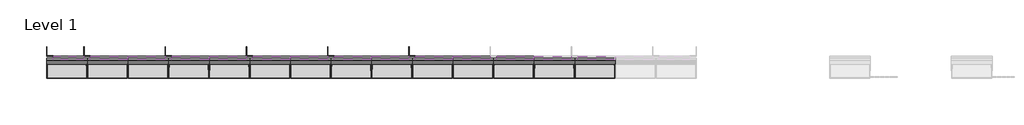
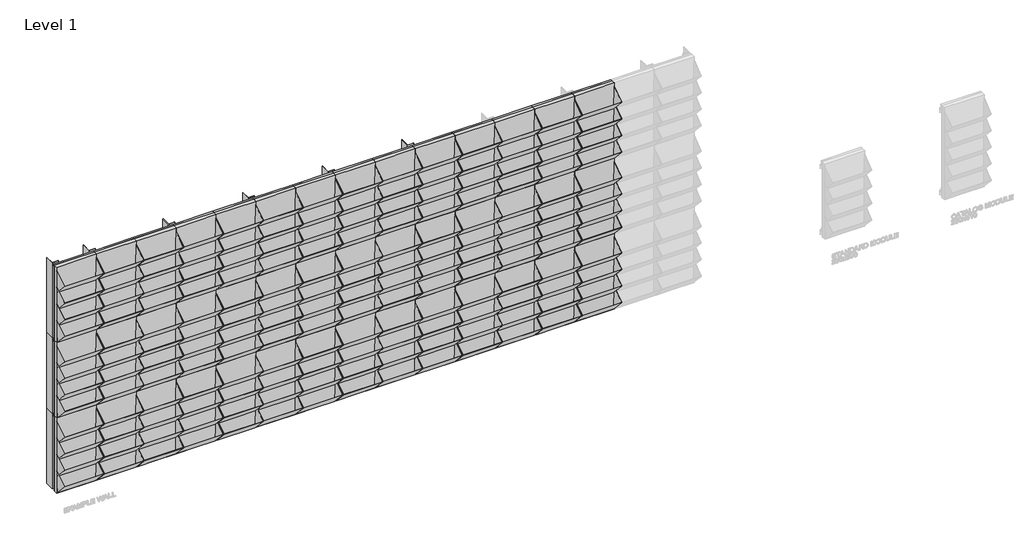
# One storey, part 1 of 5: 73 members, 42 plates.
"""IFC4 building model written with IfcOpenShell, lengths in millimetres."""

from ifc_helpers import new_model, si_unit, origin, place, context, project, spatial, transform, mapped, element, save
from components import rectangular_mullion_profile_l_40x60x2_middle_c334e065, rectangular_mullion_profile_l_40x60x2_side_1_11e097ac, rectangular_mullion_profile_z_30x20x30x3_3003ded6, rectangular_mullion_profile_z_30x20x30x3_0b947876, rectangular_mullion_profile_z_30x20x30x3_bottom_3744114f, rectangular_mullion_profile_z_30x20x30x3_bottom_b9145eb6, panel_ecofacade_panel_ecofacade_bfa1dbbb

model = new_model("IFC4")

# Units and contexts
model_context = context("Model", 3, world=origin())
ifc_project = project(units=[si_unit("LENGTHUNIT", "METRE", prefix="MILLI")], contexts=[model_context])

# Site, building, storey
site = spatial("IfcSite", under=ifc_project)
building = spatial("IfcBuilding", under=site)
storey = spatial("IfcBuildingStorey", under=building, Name="Level 1", Elevation=0.0)

# Members
placement = place(None, origin())
rectangular_mullion_profile_l_40x60x2_middle_shape = rectangular_mullion_profile_l_40x60x2_middle_c334e065(model_context)
element("IfcMember", 1, ObjectType="Rectangular Mullion : Profile L 40x60x2 - middle", at=placement, inside=storey, context=model_context, shape_type="MappedRepresentation", body=[
    mapped(rectangular_mullion_profile_l_40x60x2_middle_shape, transform((-5332.0380928, -72.7156773, 1000.0), x_axis=(1.0, 0.0, 0.0), y_axis=(0.0, -1.0, 0.0), z_axis=(0.0, 0.0, -1.0))),
])
element("IfcMember", 2, ObjectType="Rectangular Mullion : Profile L 40x60x2 - middle", at=placement, inside=storey, context=model_context, shape_type="MappedRepresentation", body=[
    mapped(rectangular_mullion_profile_l_40x60x2_middle_shape, transform((-4832.0380928, -72.7156773, 1000.0), x_axis=(1.0, 0.0, 0.0), y_axis=(0.0, -1.0, 0.0), z_axis=(0.0, 0.0, -1.0))),
])
element("IfcMember", 3, ObjectType="Rectangular Mullion : Profile L 40x60x2 - middle", at=placement, inside=storey, context=model_context, shape_type="MappedRepresentation", body=[
    mapped(rectangular_mullion_profile_l_40x60x2_middle_shape, transform((-4332.0380928, -72.7156773, 1000.0), x_axis=(1.0, 0.0, 0.0), y_axis=(0.0, -1.0, 0.0), z_axis=(0.0, 0.0, -1.0))),
])
element("IfcMember", 4, ObjectType="Rectangular Mullion : Profile L 40x60x2 - middle", at=placement, inside=storey, context=model_context, shape_type="MappedRepresentation", body=[
    mapped(rectangular_mullion_profile_l_40x60x2_middle_shape, transform((-3832.0380928, -72.7156773, 1000.0), x_axis=(1.0, 0.0, 0.0), y_axis=(0.0, -1.0, 0.0), z_axis=(0.0, 0.0, -1.0))),
])
element("IfcMember", 5, ObjectType="Rectangular Mullion : Profile L 40x60x2 - middle", at=placement, inside=storey, context=model_context, shape_type="MappedRepresentation", body=[
    mapped(rectangular_mullion_profile_l_40x60x2_middle_shape, transform((-3332.0380928, -72.7156773, 1000.0), x_axis=(1.0, 0.0, 0.0), y_axis=(0.0, -1.0, 0.0), z_axis=(0.0, 0.0, -1.0))),
])
element("IfcMember", 6, ObjectType="Rectangular Mullion : Profile L 40x60x2 - middle", at=placement, inside=storey, context=model_context, shape_type="MappedRepresentation", body=[
    mapped(rectangular_mullion_profile_l_40x60x2_middle_shape, transform((-5332.0380928, -72.7156773, 500.0), x_axis=(1.0, 0.0, 0.0), y_axis=(0.0, -1.0, 0.0), z_axis=(0.0, 0.0, -1.0))),
])
element("IfcMember", 7, ObjectType="Rectangular Mullion : Profile L 40x60x2 - middle", at=placement, inside=storey, context=model_context, shape_type="MappedRepresentation", body=[
    mapped(rectangular_mullion_profile_l_40x60x2_middle_shape, transform((-4832.0380928, -72.7156773, 500.0), x_axis=(1.0, 0.0, 0.0), y_axis=(0.0, -1.0, 0.0), z_axis=(0.0, 0.0, -1.0))),
])
element("IfcMember", 8, ObjectType="Rectangular Mullion : Profile L 40x60x2 - middle", at=placement, inside=storey, context=model_context, shape_type="MappedRepresentation", body=[
    mapped(rectangular_mullion_profile_l_40x60x2_middle_shape, transform((-4332.0380928, -72.7156773, 500.0), x_axis=(1.0, 0.0, 0.0), y_axis=(0.0, -1.0, 0.0), z_axis=(0.0, 0.0, -1.0))),
])
element("IfcMember", 9, ObjectType="Rectangular Mullion : Profile L 40x60x2 - middle", at=placement, inside=storey, context=model_context, shape_type="MappedRepresentation", body=[
    mapped(rectangular_mullion_profile_l_40x60x2_middle_shape, transform((-3832.0380928, -72.7156773, 500.0), x_axis=(1.0, 0.0, 0.0), y_axis=(0.0, -1.0, 0.0), z_axis=(0.0, 0.0, -1.0))),
])
element("IfcMember", 10, ObjectType="Rectangular Mullion : Profile L 40x60x2 - middle", at=placement, inside=storey, context=model_context, shape_type="MappedRepresentation", body=[
    mapped(rectangular_mullion_profile_l_40x60x2_middle_shape, transform((-3332.0380928, -72.7156773, 500.0), x_axis=(1.0, 0.0, 0.0), y_axis=(0.0, -1.0, 0.0), z_axis=(0.0, 0.0, -1.0))),
])
element("IfcMember", 11, ObjectType="Rectangular Mullion : Profile L 40x60x2 - middle", at=placement, inside=storey, context=model_context, shape_type="MappedRepresentation", body=[
    mapped(rectangular_mullion_profile_l_40x60x2_middle_shape, transform((-5332.0380928, -72.7156773, 0.0), x_axis=(1.0, 0.0, 0.0), y_axis=(0.0, -1.0, 0.0), z_axis=(0.0, 0.0, -1.0))),
])
element("IfcMember", 12, ObjectType="Rectangular Mullion : Profile L 40x60x2 - middle", at=placement, inside=storey, context=model_context, shape_type="MappedRepresentation", body=[
    mapped(rectangular_mullion_profile_l_40x60x2_middle_shape, transform((-4832.0380928, -72.7156773, 0.0), x_axis=(1.0, 0.0, 0.0), y_axis=(0.0, -1.0, 0.0), z_axis=(0.0, 0.0, -1.0))),
])
element("IfcMember", 13, ObjectType="Rectangular Mullion : Profile L 40x60x2 - middle", at=placement, inside=storey, context=model_context, shape_type="MappedRepresentation", body=[
    mapped(rectangular_mullion_profile_l_40x60x2_middle_shape, transform((-4332.0380928, -72.7156773, 0.0), x_axis=(1.0, 0.0, 0.0), y_axis=(0.0, -1.0, 0.0), z_axis=(0.0, 0.0, -1.0))),
])
element("IfcMember", 14, ObjectType="Rectangular Mullion : Profile L 40x60x2 - middle", at=placement, inside=storey, context=model_context, shape_type="MappedRepresentation", body=[
    mapped(rectangular_mullion_profile_l_40x60x2_middle_shape, transform((-3832.0380928, -72.7156773, 0.0), x_axis=(1.0, 0.0, 0.0), y_axis=(0.0, -1.0, 0.0), z_axis=(0.0, 0.0, -1.0))),
])
element("IfcMember", 15, ObjectType="Rectangular Mullion : Profile L 40x60x2 - middle", at=placement, inside=storey, context=model_context, shape_type="MappedRepresentation", body=[
    mapped(rectangular_mullion_profile_l_40x60x2_middle_shape, transform((-3332.0380928, -72.7156773, 0.0), x_axis=(1.0, 0.0, 0.0), y_axis=(0.0, -1.0, 0.0), z_axis=(0.0, 0.0, -1.0))),
])
rectangular_mullion_profile_l_40x60x2_side_1_shape = rectangular_mullion_profile_l_40x60x2_side_1_11e097ac(model_context)
element("IfcMember", 16, ObjectType="Rectangular Mullion : Profile L 40x60x2 - side (2)", at=placement, inside=storey, context=model_context, shape_type="MappedRepresentation", body=[
    mapped(rectangular_mullion_profile_l_40x60x2_side_1_shape, transform((-5582.0380931, -72.7156773, 500.0), x_axis=(-1.0, 0.0, 0.0), y_axis=(0.0, -1.0, 0.0), z_axis=(0.0, 0.0, 1.0))),
])
element("IfcMember", 17, ObjectType="Rectangular Mullion : Profile L 40x60x2 - side (2)", at=placement, inside=storey, context=model_context, shape_type="MappedRepresentation", body=[
    mapped(rectangular_mullion_profile_l_40x60x2_side_1_shape, transform((-5582.0380931, -72.7156773, 1500.0), x_axis=(-1.0, 0.0, 0.0), y_axis=(0.0, -1.0, 0.0), z_axis=(0.0, 0.0, 1.0))),
])
element("IfcMember", 18, ObjectType="Rectangular Mullion : Profile L 40x60x2 - side (2)", at=placement, inside=storey, context=model_context, shape_type="MappedRepresentation", body=[
    mapped(rectangular_mullion_profile_l_40x60x2_side_1_shape, transform((-5582.0380931, -72.7156773, 1000.0), x_axis=(-1.0, 0.0, 0.0), y_axis=(0.0, -1.0, 0.0), z_axis=(0.0, 0.0, 1.0))),
])
rectangular_mullion_profile_z_30x20x30x3_shape = rectangular_mullion_profile_z_30x20x30x3_3003ded6(model_context)
element("IfcMember", 19, ObjectType="Rectangular Mullion : Profile Z 30x20x30x3", at=placement, inside=storey, context=model_context, shape_type="MappedRepresentation", body=[
    mapped(rectangular_mullion_profile_z_30x20x30x3_shape, transform((-5082.0380928, -72.7156773, 1500.0), x_axis=(0.0, 0.0, 1.0), y_axis=(0.0, -1.0, 0.0), z_axis=(1.0, 0.0, 0.0))),
])
element("IfcMember", 20, ObjectType="Rectangular Mullion : Profile Z 30x20x30x3", at=placement, inside=storey, context=model_context, shape_type="MappedRepresentation", body=[
    mapped(rectangular_mullion_profile_z_30x20x30x3_shape, transform((-4582.0380928, -72.7156773, 1500.0), x_axis=(0.0, 0.0, 1.0), y_axis=(0.0, -1.0, 0.0), z_axis=(1.0, 0.0, 0.0))),
])
element("IfcMember", 21, ObjectType="Rectangular Mullion : Profile Z 30x20x30x3", at=placement, inside=storey, context=model_context, shape_type="MappedRepresentation", body=[
    mapped(rectangular_mullion_profile_z_30x20x30x3_shape, transform((-4082.0380928, -72.7156773, 1500.0), x_axis=(0.0, 0.0, 1.0), y_axis=(0.0, -1.0, 0.0), z_axis=(1.0, 0.0, 0.0))),
])
element("IfcMember", 22, ObjectType="Rectangular Mullion : Profile Z 30x20x30x3", at=placement, inside=storey, context=model_context, shape_type="MappedRepresentation", body=[
    mapped(rectangular_mullion_profile_z_30x20x30x3_shape, transform((-3582.0380928, -72.7156773, 1500.0), x_axis=(0.0, 0.0, 1.0), y_axis=(0.0, -1.0, 0.0), z_axis=(1.0, 0.0, 0.0))),
])
element("IfcMember", 23, ObjectType="Rectangular Mullion : Profile Z 30x20x30x3", at=placement, inside=storey, context=model_context, shape_type="MappedRepresentation", body=[
    mapped(rectangular_mullion_profile_z_30x20x30x3_shape, transform((-3082.0380928, -72.7156773, 1500.0), x_axis=(0.0, 0.0, 1.0), y_axis=(0.0, -1.0, 0.0), z_axis=(1.0, 0.0, 0.0))),
])
element("IfcMember", 24, ObjectType="Rectangular Mullion : Profile Z 30x20x30x3", at=placement, inside=storey, context=model_context, shape_type="MappedRepresentation", body=[
    mapped(rectangular_mullion_profile_z_30x20x30x3_shape, transform((-2582.0380928, -72.7156773, 1500.0), x_axis=(0.0, 0.0, 1.0), y_axis=(0.0, -1.0, 0.0), z_axis=(1.0, 0.0, 0.0))),
])
element("IfcMember", 25, ObjectType="Rectangular Mullion : Profile Z 30x20x30x3", at=placement, inside=storey, context=model_context, shape_type="MappedRepresentation", body=[
    mapped(rectangular_mullion_profile_z_30x20x30x3_shape, transform((-2082.0380928, -72.7156773, 1500.0), x_axis=(0.0, 0.0, 1.0), y_axis=(0.0, -1.0, 0.0), z_axis=(1.0, 0.0, 0.0))),
])
element("IfcMember", 26, ObjectType="Rectangular Mullion : Profile Z 30x20x30x3", at=placement, inside=storey, context=model_context, shape_type="MappedRepresentation", body=[
    mapped(rectangular_mullion_profile_z_30x20x30x3_shape, transform((-5082.0380928, -72.7156773, 500.0), x_axis=(0.0, 0.0, 1.0), y_axis=(0.0, -1.0, 0.0), z_axis=(1.0, 0.0, 0.0))),
])
element("IfcMember", 27, ObjectType="Rectangular Mullion : Profile Z 30x20x30x3", at=placement, inside=storey, context=model_context, shape_type="MappedRepresentation", body=[
    mapped(rectangular_mullion_profile_z_30x20x30x3_shape, transform((-4582.0380928, -72.7156773, 500.0), x_axis=(0.0, 0.0, 1.0), y_axis=(0.0, -1.0, 0.0), z_axis=(1.0, 0.0, 0.0))),
])
element("IfcMember", 28, ObjectType="Rectangular Mullion : Profile Z 30x20x30x3", at=placement, inside=storey, context=model_context, shape_type="MappedRepresentation", body=[
    mapped(rectangular_mullion_profile_z_30x20x30x3_shape, transform((-4082.0380928, -72.7156773, 500.0), x_axis=(0.0, 0.0, 1.0), y_axis=(0.0, -1.0, 0.0), z_axis=(1.0, 0.0, 0.0))),
])
element("IfcMember", 29, ObjectType="Rectangular Mullion : Profile Z 30x20x30x3", at=placement, inside=storey, context=model_context, shape_type="MappedRepresentation", body=[
    mapped(rectangular_mullion_profile_z_30x20x30x3_shape, transform((-3582.0380928, -72.7156773, 500.0), x_axis=(0.0, 0.0, 1.0), y_axis=(0.0, -1.0, 0.0), z_axis=(1.0, 0.0, 0.0))),
])
element("IfcMember", 30, ObjectType="Rectangular Mullion : Profile Z 30x20x30x3", at=placement, inside=storey, context=model_context, shape_type="MappedRepresentation", body=[
    mapped(rectangular_mullion_profile_z_30x20x30x3_shape, transform((-3082.0380928, -72.7156773, 500.0), x_axis=(0.0, 0.0, 1.0), y_axis=(0.0, -1.0, 0.0), z_axis=(1.0, 0.0, 0.0))),
])
element("IfcMember", 31, ObjectType="Rectangular Mullion : Profile Z 30x20x30x3", at=placement, inside=storey, context=model_context, shape_type="MappedRepresentation", body=[
    mapped(rectangular_mullion_profile_z_30x20x30x3_shape, transform((-2582.0380928, -72.7156773, 500.0), x_axis=(0.0, 0.0, 1.0), y_axis=(0.0, -1.0, 0.0), z_axis=(1.0, 0.0, 0.0))),
])
element("IfcMember", 32, ObjectType="Rectangular Mullion : Profile Z 30x20x30x3", at=placement, inside=storey, context=model_context, shape_type="MappedRepresentation", body=[
    mapped(rectangular_mullion_profile_z_30x20x30x3_shape, transform((-2082.0380928, -72.7156773, 500.0), x_axis=(0.0, 0.0, 1.0), y_axis=(0.0, -1.0, 0.0), z_axis=(1.0, 0.0, 0.0))),
])
element("IfcMember", 33, ObjectType="Rectangular Mullion : Profile Z 30x20x30x3", at=placement, inside=storey, context=model_context, shape_type="MappedRepresentation", body=[
    mapped(rectangular_mullion_profile_z_30x20x30x3_shape, transform((-5082.0380928, -72.7156773, 1000.0), x_axis=(0.0, 0.0, 1.0), y_axis=(0.0, -1.0, 0.0), z_axis=(1.0, 0.0, 0.0))),
])
element("IfcMember", 34, ObjectType="Rectangular Mullion : Profile Z 30x20x30x3", at=placement, inside=storey, context=model_context, shape_type="MappedRepresentation", body=[
    mapped(rectangular_mullion_profile_z_30x20x30x3_shape, transform((-4582.0380928, -72.7156773, 1000.0), x_axis=(0.0, 0.0, 1.0), y_axis=(0.0, -1.0, 0.0), z_axis=(1.0, 0.0, 0.0))),
])
element("IfcMember", 35, ObjectType="Rectangular Mullion : Profile Z 30x20x30x3", at=placement, inside=storey, context=model_context, shape_type="MappedRepresentation", body=[
    mapped(rectangular_mullion_profile_z_30x20x30x3_shape, transform((-4082.0380928, -72.7156773, 1000.0), x_axis=(0.0, 0.0, 1.0), y_axis=(0.0, -1.0, 0.0), z_axis=(1.0, 0.0, 0.0))),
])
element("IfcMember", 36, ObjectType="Rectangular Mullion : Profile Z 30x20x30x3", at=placement, inside=storey, context=model_context, shape_type="MappedRepresentation", body=[
    mapped(rectangular_mullion_profile_z_30x20x30x3_shape, transform((-3582.0380928, -72.7156773, 1000.0), x_axis=(0.0, 0.0, 1.0), y_axis=(0.0, -1.0, 0.0), z_axis=(1.0, 0.0, 0.0))),
])
element("IfcMember", 37, ObjectType="Rectangular Mullion : Profile Z 30x20x30x3", at=placement, inside=storey, context=model_context, shape_type="MappedRepresentation", body=[
    mapped(rectangular_mullion_profile_z_30x20x30x3_shape, transform((-3082.0380928, -72.7156773, 1000.0), x_axis=(0.0, 0.0, 1.0), y_axis=(0.0, -1.0, 0.0), z_axis=(1.0, 0.0, 0.0))),
])
element("IfcMember", 38, ObjectType="Rectangular Mullion : Profile Z 30x20x30x3", at=placement, inside=storey, context=model_context, shape_type="MappedRepresentation", body=[
    mapped(rectangular_mullion_profile_z_30x20x30x3_shape, transform((-2582.0380928, -72.7156773, 1000.0), x_axis=(0.0, 0.0, 1.0), y_axis=(0.0, -1.0, 0.0), z_axis=(1.0, 0.0, 0.0))),
])
element("IfcMember", 39, ObjectType="Rectangular Mullion : Profile Z 30x20x30x3", at=placement, inside=storey, context=model_context, shape_type="MappedRepresentation", body=[
    mapped(rectangular_mullion_profile_z_30x20x30x3_shape, transform((-4852.0380928, -72.7156773, 1500.0), x_axis=(0.0, 0.0, 1.0), y_axis=(0.0, -1.0, 0.0), z_axis=(1.0, 0.0, 0.0))),
])
element("IfcMember", 40, ObjectType="Rectangular Mullion : Profile Z 30x20x30x3", at=placement, inside=storey, context=model_context, shape_type="MappedRepresentation", body=[
    mapped(rectangular_mullion_profile_z_30x20x30x3_shape, transform((-4352.0380928, -72.7156773, 1500.0), x_axis=(0.0, 0.0, 1.0), y_axis=(0.0, -1.0, 0.0), z_axis=(1.0, 0.0, 0.0))),
])
element("IfcMember", 41, ObjectType="Rectangular Mullion : Profile Z 30x20x30x3", at=placement, inside=storey, context=model_context, shape_type="MappedRepresentation", body=[
    mapped(rectangular_mullion_profile_z_30x20x30x3_shape, transform((-3852.0380928, -72.7156773, 1500.0), x_axis=(0.0, 0.0, 1.0), y_axis=(0.0, -1.0, 0.0), z_axis=(1.0, 0.0, 0.0))),
])
element("IfcMember", 42, ObjectType="Rectangular Mullion : Profile Z 30x20x30x3", at=placement, inside=storey, context=model_context, shape_type="MappedRepresentation", body=[
    mapped(rectangular_mullion_profile_z_30x20x30x3_shape, transform((-3352.0380928, -72.7156773, 1500.0), x_axis=(0.0, 0.0, 1.0), y_axis=(0.0, -1.0, 0.0), z_axis=(1.0, 0.0, 0.0))),
])
element("IfcMember", 43, ObjectType="Rectangular Mullion : Profile Z 30x20x30x3", at=placement, inside=storey, context=model_context, shape_type="MappedRepresentation", body=[
    mapped(rectangular_mullion_profile_z_30x20x30x3_shape, transform((-2852.0380928, -72.7156773, 1500.0), x_axis=(0.0, 0.0, 1.0), y_axis=(0.0, -1.0, 0.0), z_axis=(1.0, 0.0, 0.0))),
])
element("IfcMember", 44, ObjectType="Rectangular Mullion : Profile Z 30x20x30x3", at=placement, inside=storey, context=model_context, shape_type="MappedRepresentation", body=[
    mapped(rectangular_mullion_profile_z_30x20x30x3_shape, transform((-2352.0380928, -72.7156773, 1500.0), x_axis=(0.0, 0.0, 1.0), y_axis=(0.0, -1.0, 0.0), z_axis=(1.0, 0.0, 0.0))),
])
element("IfcMember", 45, ObjectType="Rectangular Mullion : Profile Z 30x20x30x3", at=placement, inside=storey, context=model_context, shape_type="MappedRepresentation", body=[
    mapped(rectangular_mullion_profile_z_30x20x30x3_shape, transform((-4852.0380928, -72.7156773, 500.0), x_axis=(0.0, 0.0, 1.0), y_axis=(0.0, -1.0, 0.0), z_axis=(1.0, 0.0, 0.0))),
])
element("IfcMember", 46, ObjectType="Rectangular Mullion : Profile Z 30x20x30x3", at=placement, inside=storey, context=model_context, shape_type="MappedRepresentation", body=[
    mapped(rectangular_mullion_profile_z_30x20x30x3_shape, transform((-4352.0380928, -72.7156773, 500.0), x_axis=(0.0, 0.0, 1.0), y_axis=(0.0, -1.0, 0.0), z_axis=(1.0, 0.0, 0.0))),
])
element("IfcMember", 47, ObjectType="Rectangular Mullion : Profile Z 30x20x30x3", at=placement, inside=storey, context=model_context, shape_type="MappedRepresentation", body=[
    mapped(rectangular_mullion_profile_z_30x20x30x3_shape, transform((-3852.0380928, -72.7156773, 500.0), x_axis=(0.0, 0.0, 1.0), y_axis=(0.0, -1.0, 0.0), z_axis=(1.0, 0.0, 0.0))),
])
element("IfcMember", 48, ObjectType="Rectangular Mullion : Profile Z 30x20x30x3", at=placement, inside=storey, context=model_context, shape_type="MappedRepresentation", body=[
    mapped(rectangular_mullion_profile_z_30x20x30x3_shape, transform((-3352.0380928, -72.7156773, 500.0), x_axis=(0.0, 0.0, 1.0), y_axis=(0.0, -1.0, 0.0), z_axis=(1.0, 0.0, 0.0))),
])
element("IfcMember", 49, ObjectType="Rectangular Mullion : Profile Z 30x20x30x3", at=placement, inside=storey, context=model_context, shape_type="MappedRepresentation", body=[
    mapped(rectangular_mullion_profile_z_30x20x30x3_shape, transform((-2852.0380928, -72.7156773, 500.0), x_axis=(0.0, 0.0, 1.0), y_axis=(0.0, -1.0, 0.0), z_axis=(1.0, 0.0, 0.0))),
])
element("IfcMember", 50, ObjectType="Rectangular Mullion : Profile Z 30x20x30x3", at=placement, inside=storey, context=model_context, shape_type="MappedRepresentation", body=[
    mapped(rectangular_mullion_profile_z_30x20x30x3_shape, transform((-2352.0380928, -72.7156773, 500.0), x_axis=(0.0, 0.0, 1.0), y_axis=(0.0, -1.0, 0.0), z_axis=(1.0, 0.0, 0.0))),
])
element("IfcMember", 51, ObjectType="Rectangular Mullion : Profile Z 30x20x30x3", at=placement, inside=storey, context=model_context, shape_type="MappedRepresentation", body=[
    mapped(rectangular_mullion_profile_z_30x20x30x3_shape, transform((-4852.0380928, -72.7156773, 1000.0), x_axis=(0.0, 0.0, 1.0), y_axis=(0.0, -1.0, 0.0), z_axis=(1.0, 0.0, 0.0))),
])
element("IfcMember", 52, ObjectType="Rectangular Mullion : Profile Z 30x20x30x3", at=placement, inside=storey, context=model_context, shape_type="MappedRepresentation", body=[
    mapped(rectangular_mullion_profile_z_30x20x30x3_shape, transform((-4352.0380928, -72.7156773, 1000.0), x_axis=(0.0, 0.0, 1.0), y_axis=(0.0, -1.0, 0.0), z_axis=(1.0, 0.0, 0.0))),
])
element("IfcMember", 53, ObjectType="Rectangular Mullion : Profile Z 30x20x30x3", at=placement, inside=storey, context=model_context, shape_type="MappedRepresentation", body=[
    mapped(rectangular_mullion_profile_z_30x20x30x3_shape, transform((-3852.0380928, -72.7156773, 1000.0), x_axis=(0.0, 0.0, 1.0), y_axis=(0.0, -1.0, 0.0), z_axis=(1.0, 0.0, 0.0))),
])
element("IfcMember", 54, ObjectType="Rectangular Mullion : Profile Z 30x20x30x3", at=placement, inside=storey, context=model_context, shape_type="MappedRepresentation", body=[
    mapped(rectangular_mullion_profile_z_30x20x30x3_shape, transform((-3352.0380928, -72.7156773, 1000.0), x_axis=(0.0, 0.0, 1.0), y_axis=(0.0, -1.0, 0.0), z_axis=(1.0, 0.0, 0.0))),
])
element("IfcMember", 55, ObjectType="Rectangular Mullion : Profile Z 30x20x30x3", at=placement, inside=storey, context=model_context, shape_type="MappedRepresentation", body=[
    mapped(rectangular_mullion_profile_z_30x20x30x3_shape, transform((-2852.0380928, -72.7156773, 1000.0), x_axis=(0.0, 0.0, 1.0), y_axis=(0.0, -1.0, 0.0), z_axis=(1.0, 0.0, 0.0))),
])
rectangular_mullion_profile_z_30x20x30x3_2_shape = rectangular_mullion_profile_z_30x20x30x3_0b947876(model_context)
element("IfcMember", 56, ObjectType="Rectangular Mullion : Profile Z 30x20x30x3", at=placement, inside=storey, context=model_context, shape_type="MappedRepresentation", body=[
    mapped(rectangular_mullion_profile_z_30x20x30x3_2_shape, transform((-5352.0380928, -72.7156773, 1500.0), x_axis=(0.0, 0.0, 1.0), y_axis=(0.0, -1.0, 0.0), z_axis=(1.0, 0.0, 0.0))),
])
element("IfcMember", 57, ObjectType="Rectangular Mullion : Profile Z 30x20x30x3", at=placement, inside=storey, context=model_context, shape_type="MappedRepresentation", body=[
    mapped(rectangular_mullion_profile_z_30x20x30x3_2_shape, transform((-5352.0380928, -72.7156773, 500.0), x_axis=(0.0, 0.0, 1.0), y_axis=(0.0, -1.0, 0.0), z_axis=(1.0, 0.0, 0.0))),
])
element("IfcMember", 58, ObjectType="Rectangular Mullion : Profile Z 30x20x30x3", at=placement, inside=storey, context=model_context, shape_type="MappedRepresentation", body=[
    mapped(rectangular_mullion_profile_z_30x20x30x3_2_shape, transform((-5352.0380928, -72.7156773, 1000.0), x_axis=(0.0, 0.0, 1.0), y_axis=(0.0, -1.0, 0.0), z_axis=(1.0, 0.0, 0.0))),
])
rectangular_mullion_profile_z_30x20x30x3_bottom_shape = rectangular_mullion_profile_z_30x20x30x3_bottom_3744114f(model_context)
element("IfcMember", 59, ObjectType="Rectangular Mullion : Profile Z 30x20x30x3 bottom", at=placement, inside=storey, context=model_context, shape_type="MappedRepresentation", body=[
    mapped(rectangular_mullion_profile_z_30x20x30x3_bottom_shape, transform((-5312.0380928, -72.7156773, 0.0), x_axis=(0.0, 0.0, -1.0), y_axis=(0.0, -1.0, 0.0), z_axis=(-1.0, 0.0, 0.0))),
])
element("IfcMember", 60, ObjectType="Rectangular Mullion : Profile Z 30x20x30x3 bottom", at=placement, inside=storey, context=model_context, shape_type="MappedRepresentation", body=[
    mapped(rectangular_mullion_profile_z_30x20x30x3_bottom_shape, transform((-4812.0380928, -72.7156773, 0.0), x_axis=(0.0, 0.0, -1.0), y_axis=(0.0, -1.0, 0.0), z_axis=(-1.0, 0.0, 0.0))),
])
element("IfcMember", 61, ObjectType="Rectangular Mullion : Profile Z 30x20x30x3 bottom", at=placement, inside=storey, context=model_context, shape_type="MappedRepresentation", body=[
    mapped(rectangular_mullion_profile_z_30x20x30x3_bottom_shape, transform((-4312.0380928, -72.7156773, 0.0), x_axis=(0.0, 0.0, -1.0), y_axis=(0.0, -1.0, 0.0), z_axis=(-1.0, 0.0, 0.0))),
])
element("IfcMember", 62, ObjectType="Rectangular Mullion : Profile Z 30x20x30x3 bottom", at=placement, inside=storey, context=model_context, shape_type="MappedRepresentation", body=[
    mapped(rectangular_mullion_profile_z_30x20x30x3_bottom_shape, transform((-3812.0380928, -72.7156773, 0.0), x_axis=(0.0, 0.0, -1.0), y_axis=(0.0, -1.0, 0.0), z_axis=(-1.0, 0.0, 0.0))),
])
element("IfcMember", 63, ObjectType="Rectangular Mullion : Profile Z 30x20x30x3 bottom", at=placement, inside=storey, context=model_context, shape_type="MappedRepresentation", body=[
    mapped(rectangular_mullion_profile_z_30x20x30x3_bottom_shape, transform((-3312.0380928, -72.7156773, 0.0), x_axis=(0.0, 0.0, -1.0), y_axis=(0.0, -1.0, 0.0), z_axis=(-1.0, 0.0, 0.0))),
])
element("IfcMember", 64, ObjectType="Rectangular Mullion : Profile Z 30x20x30x3 bottom", at=placement, inside=storey, context=model_context, shape_type="MappedRepresentation", body=[
    mapped(rectangular_mullion_profile_z_30x20x30x3_bottom_shape, transform((-2812.0380928, -72.7156773, 0.0), x_axis=(0.0, 0.0, -1.0), y_axis=(0.0, -1.0, 0.0), z_axis=(-1.0, 0.0, 0.0))),
])
element("IfcMember", 65, ObjectType="Rectangular Mullion : Profile Z 30x20x30x3 bottom", at=placement, inside=storey, context=model_context, shape_type="MappedRepresentation", body=[
    mapped(rectangular_mullion_profile_z_30x20x30x3_bottom_shape, transform((-2312.0380928, -72.7156773, 0.0), x_axis=(0.0, 0.0, -1.0), y_axis=(0.0, -1.0, 0.0), z_axis=(-1.0, 0.0, 0.0))),
])
element("IfcMember", 66, ObjectType="Rectangular Mullion : Profile Z 30x20x30x3 bottom", at=placement, inside=storey, context=model_context, shape_type="MappedRepresentation", body=[
    mapped(rectangular_mullion_profile_z_30x20x30x3_bottom_shape, transform((-5082.0380928, -72.7156773, 0.0), x_axis=(0.0, 0.0, -1.0), y_axis=(0.0, -1.0, 0.0), z_axis=(-1.0, 0.0, 0.0))),
])
element("IfcMember", 67, ObjectType="Rectangular Mullion : Profile Z 30x20x30x3 bottom", at=placement, inside=storey, context=model_context, shape_type="MappedRepresentation", body=[
    mapped(rectangular_mullion_profile_z_30x20x30x3_bottom_shape, transform((-4582.0380928, -72.7156773, 0.0), x_axis=(0.0, 0.0, -1.0), y_axis=(0.0, -1.0, 0.0), z_axis=(-1.0, 0.0, 0.0))),
])
element("IfcMember", 68, ObjectType="Rectangular Mullion : Profile Z 30x20x30x3 bottom", at=placement, inside=storey, context=model_context, shape_type="MappedRepresentation", body=[
    mapped(rectangular_mullion_profile_z_30x20x30x3_bottom_shape, transform((-4082.0380928, -72.7156773, 0.0), x_axis=(0.0, 0.0, -1.0), y_axis=(0.0, -1.0, 0.0), z_axis=(-1.0, 0.0, 0.0))),
])
element("IfcMember", 69, ObjectType="Rectangular Mullion : Profile Z 30x20x30x3 bottom", at=placement, inside=storey, context=model_context, shape_type="MappedRepresentation", body=[
    mapped(rectangular_mullion_profile_z_30x20x30x3_bottom_shape, transform((-3582.0380928, -72.7156773, 0.0), x_axis=(0.0, 0.0, -1.0), y_axis=(0.0, -1.0, 0.0), z_axis=(-1.0, 0.0, 0.0))),
])
element("IfcMember", 70, ObjectType="Rectangular Mullion : Profile Z 30x20x30x3 bottom", at=placement, inside=storey, context=model_context, shape_type="MappedRepresentation", body=[
    mapped(rectangular_mullion_profile_z_30x20x30x3_bottom_shape, transform((-3082.0380928, -72.7156773, 0.0), x_axis=(0.0, 0.0, -1.0), y_axis=(0.0, -1.0, 0.0), z_axis=(-1.0, 0.0, 0.0))),
])
element("IfcMember", 71, ObjectType="Rectangular Mullion : Profile Z 30x20x30x3 bottom", at=placement, inside=storey, context=model_context, shape_type="MappedRepresentation", body=[
    mapped(rectangular_mullion_profile_z_30x20x30x3_bottom_shape, transform((-2582.0380928, -72.7156773, 0.0), x_axis=(0.0, 0.0, -1.0), y_axis=(0.0, -1.0, 0.0), z_axis=(-1.0, 0.0, 0.0))),
])
element("IfcMember", 72, ObjectType="Rectangular Mullion : Profile Z 30x20x30x3 bottom", at=placement, inside=storey, context=model_context, shape_type="MappedRepresentation", body=[
    mapped(rectangular_mullion_profile_z_30x20x30x3_bottom_shape, transform((-2082.0380928, -72.7156773, 0.0), x_axis=(0.0, 0.0, -1.0), y_axis=(0.0, -1.0, 0.0), z_axis=(-1.0, 0.0, 0.0))),
])
rectangular_mullion_profile_z_30x20x30x3_bottom_2_shape = rectangular_mullion_profile_z_30x20x30x3_bottom_b9145eb6(model_context)
element("IfcMember", 73, ObjectType="Rectangular Mullion : Profile Z 30x20x30x3 bottom", at=placement, inside=storey, context=model_context, shape_type="MappedRepresentation", body=[
    mapped(rectangular_mullion_profile_z_30x20x30x3_bottom_2_shape, transform((-5542.0380931, -72.7156773, 0.0), x_axis=(0.0, 0.0, -1.0), y_axis=(0.0, -1.0, 0.0), z_axis=(-1.0, 0.0, 0.0))),
])

# Plates
panel_ecofacade_panel_ecofacade_shape = panel_ecofacade_panel_ecofacade_bfa1dbbb(model_context)
element("IfcPlate", 74, ObjectType="Panel EcoFacade : Panel EcoFacade", at=placement, inside=storey, context=model_context, shape_type="MappedRepresentation", body=[
    mapped(panel_ecofacade_panel_ecofacade_shape, transform((-5457.0380929, -72.7156773, 0.0), x_axis=(1.0, 0.0, 0.0), y_axis=(0.0, 1.0, 0.0), z_axis=(0.0, 0.0, 1.0))),
])
element("IfcPlate", 75, ObjectType="Panel EcoFacade : Panel EcoFacade", at=placement, inside=storey, context=model_context, shape_type="MappedRepresentation", body=[
    mapped(panel_ecofacade_panel_ecofacade_shape, transform((-5207.0380928, -72.7156773, 0.0), x_axis=(1.0, 0.0, 0.0), y_axis=(0.0, 1.0, 0.0), z_axis=(0.0, 0.0, 1.0))),
])
element("IfcPlate", 76, ObjectType="Panel EcoFacade : Panel EcoFacade", at=placement, inside=storey, context=model_context, shape_type="MappedRepresentation", body=[
    mapped(panel_ecofacade_panel_ecofacade_shape, transform((-4957.0380928, -72.7156773, 0.0), x_axis=(1.0, 0.0, 0.0), y_axis=(0.0, 1.0, 0.0), z_axis=(0.0, 0.0, 1.0))),
])
element("IfcPlate", 77, ObjectType="Panel EcoFacade : Panel EcoFacade", at=placement, inside=storey, context=model_context, shape_type="MappedRepresentation", body=[
    mapped(panel_ecofacade_panel_ecofacade_shape, transform((-4707.0380928, -72.7156773, 0.0), x_axis=(1.0, 0.0, 0.0), y_axis=(0.0, 1.0, 0.0), z_axis=(0.0, 0.0, 1.0))),
])
element("IfcPlate", 78, ObjectType="Panel EcoFacade : Panel EcoFacade", at=placement, inside=storey, context=model_context, shape_type="MappedRepresentation", body=[
    mapped(panel_ecofacade_panel_ecofacade_shape, transform((-4457.0380928, -72.7156773, 0.0), x_axis=(1.0, 0.0, 0.0), y_axis=(0.0, 1.0, 0.0), z_axis=(0.0, 0.0, 1.0))),
])
element("IfcPlate", 79, ObjectType="Panel EcoFacade : Panel EcoFacade", at=placement, inside=storey, context=model_context, shape_type="MappedRepresentation", body=[
    mapped(panel_ecofacade_panel_ecofacade_shape, transform((-4207.0380928, -72.7156773, 0.0), x_axis=(1.0, 0.0, 0.0), y_axis=(0.0, 1.0, 0.0), z_axis=(0.0, 0.0, 1.0))),
])
element("IfcPlate", 80, ObjectType="Panel EcoFacade : Panel EcoFacade", at=placement, inside=storey, context=model_context, shape_type="MappedRepresentation", body=[
    mapped(panel_ecofacade_panel_ecofacade_shape, transform((-3957.0380928, -72.7156773, 0.0), x_axis=(1.0, 0.0, 0.0), y_axis=(0.0, 1.0, 0.0), z_axis=(0.0, 0.0, 1.0))),
])
element("IfcPlate", 81, ObjectType="Panel EcoFacade : Panel EcoFacade", at=placement, inside=storey, context=model_context, shape_type="MappedRepresentation", body=[
    mapped(panel_ecofacade_panel_ecofacade_shape, transform((-3707.0380928, -72.7156773, 0.0), x_axis=(1.0, 0.0, 0.0), y_axis=(0.0, 1.0, 0.0), z_axis=(0.0, 0.0, 1.0))),
])
element("IfcPlate", 82, ObjectType="Panel EcoFacade : Panel EcoFacade", at=placement, inside=storey, context=model_context, shape_type="MappedRepresentation", body=[
    mapped(panel_ecofacade_panel_ecofacade_shape, transform((-3457.0380928, -72.7156773, 0.0), x_axis=(1.0, 0.0, 0.0), y_axis=(0.0, 1.0, 0.0), z_axis=(0.0, 0.0, 1.0))),
])
element("IfcPlate", 83, ObjectType="Panel EcoFacade : Panel EcoFacade", at=placement, inside=storey, context=model_context, shape_type="MappedRepresentation", body=[
    mapped(panel_ecofacade_panel_ecofacade_shape, transform((-3207.0380928, -72.7156773, 0.0), x_axis=(1.0, 0.0, 0.0), y_axis=(0.0, 1.0, 0.0), z_axis=(0.0, 0.0, 1.0))),
])
element("IfcPlate", 84, ObjectType="Panel EcoFacade : Panel EcoFacade", at=placement, inside=storey, context=model_context, shape_type="MappedRepresentation", body=[
    mapped(panel_ecofacade_panel_ecofacade_shape, transform((-2957.0380928, -72.7156773, 0.0), x_axis=(1.0, 0.0, 0.0), y_axis=(0.0, 1.0, 0.0), z_axis=(0.0, 0.0, 1.0))),
])
element("IfcPlate", 85, ObjectType="Panel EcoFacade : Panel EcoFacade", at=placement, inside=storey, context=model_context, shape_type="MappedRepresentation", body=[
    mapped(panel_ecofacade_panel_ecofacade_shape, transform((-2707.0380928, -72.7156773, 0.0), x_axis=(1.0, 0.0, 0.0), y_axis=(0.0, 1.0, 0.0), z_axis=(0.0, 0.0, 1.0))),
])
element("IfcPlate", 86, ObjectType="Panel EcoFacade : Panel EcoFacade", at=placement, inside=storey, context=model_context, shape_type="MappedRepresentation", body=[
    mapped(panel_ecofacade_panel_ecofacade_shape, transform((-2457.0380928, -72.7156773, 0.0), x_axis=(1.0, 0.0, 0.0), y_axis=(0.0, 1.0, 0.0), z_axis=(0.0, 0.0, 1.0))),
])
element("IfcPlate", 87, ObjectType="Panel EcoFacade : Panel EcoFacade", at=placement, inside=storey, context=model_context, shape_type="MappedRepresentation", body=[
    mapped(panel_ecofacade_panel_ecofacade_shape, transform((-2207.0380928, -72.7156773, 0.0), x_axis=(1.0, 0.0, 0.0), y_axis=(0.0, 1.0, 0.0), z_axis=(0.0, 0.0, 1.0))),
])
element("IfcPlate", 88, ObjectType="Panel EcoFacade : Panel EcoFacade", at=placement, inside=storey, context=model_context, shape_type="MappedRepresentation", body=[
    mapped(panel_ecofacade_panel_ecofacade_shape, transform((-5457.0380929, -72.7156773, 500.0), x_axis=(1.0, 0.0, 0.0), y_axis=(0.0, 1.0, 0.0), z_axis=(0.0, 0.0, 1.0))),
])
element("IfcPlate", 89, ObjectType="Panel EcoFacade : Panel EcoFacade", at=placement, inside=storey, context=model_context, shape_type="MappedRepresentation", body=[
    mapped(panel_ecofacade_panel_ecofacade_shape, transform((-5207.0380928, -72.7156773, 500.0), x_axis=(1.0, 0.0, 0.0), y_axis=(0.0, 1.0, 0.0), z_axis=(0.0, 0.0, 1.0))),
])
element("IfcPlate", 90, ObjectType="Panel EcoFacade : Panel EcoFacade", at=placement, inside=storey, context=model_context, shape_type="MappedRepresentation", body=[
    mapped(panel_ecofacade_panel_ecofacade_shape, transform((-4957.0380928, -72.7156773, 500.0), x_axis=(1.0, 0.0, 0.0), y_axis=(0.0, 1.0, 0.0), z_axis=(0.0, 0.0, 1.0))),
])
element("IfcPlate", 91, ObjectType="Panel EcoFacade : Panel EcoFacade", at=placement, inside=storey, context=model_context, shape_type="MappedRepresentation", body=[
    mapped(panel_ecofacade_panel_ecofacade_shape, transform((-4707.0380928, -72.7156773, 500.0), x_axis=(1.0, 0.0, 0.0), y_axis=(0.0, 1.0, 0.0), z_axis=(0.0, 0.0, 1.0))),
])
element("IfcPlate", 92, ObjectType="Panel EcoFacade : Panel EcoFacade", at=placement, inside=storey, context=model_context, shape_type="MappedRepresentation", body=[
    mapped(panel_ecofacade_panel_ecofacade_shape, transform((-4457.0380928, -72.7156773, 500.0), x_axis=(1.0, 0.0, 0.0), y_axis=(0.0, 1.0, 0.0), z_axis=(0.0, 0.0, 1.0))),
])
element("IfcPlate", 93, ObjectType="Panel EcoFacade : Panel EcoFacade", at=placement, inside=storey, context=model_context, shape_type="MappedRepresentation", body=[
    mapped(panel_ecofacade_panel_ecofacade_shape, transform((-4207.0380928, -72.7156773, 500.0), x_axis=(1.0, 0.0, 0.0), y_axis=(0.0, 1.0, 0.0), z_axis=(0.0, 0.0, 1.0))),
])
element("IfcPlate", 94, ObjectType="Panel EcoFacade : Panel EcoFacade", at=placement, inside=storey, context=model_context, shape_type="MappedRepresentation", body=[
    mapped(panel_ecofacade_panel_ecofacade_shape, transform((-3957.0380928, -72.7156773, 500.0), x_axis=(1.0, 0.0, 0.0), y_axis=(0.0, 1.0, 0.0), z_axis=(0.0, 0.0, 1.0))),
])
element("IfcPlate", 95, ObjectType="Panel EcoFacade : Panel EcoFacade", at=placement, inside=storey, context=model_context, shape_type="MappedRepresentation", body=[
    mapped(panel_ecofacade_panel_ecofacade_shape, transform((-3707.0380928, -72.7156773, 500.0), x_axis=(1.0, 0.0, 0.0), y_axis=(0.0, 1.0, 0.0), z_axis=(0.0, 0.0, 1.0))),
])
element("IfcPlate", 96, ObjectType="Panel EcoFacade : Panel EcoFacade", at=placement, inside=storey, context=model_context, shape_type="MappedRepresentation", body=[
    mapped(panel_ecofacade_panel_ecofacade_shape, transform((-3457.0380928, -72.7156773, 500.0), x_axis=(1.0, 0.0, 0.0), y_axis=(0.0, 1.0, 0.0), z_axis=(0.0, 0.0, 1.0))),
])
element("IfcPlate", 97, ObjectType="Panel EcoFacade : Panel EcoFacade", at=placement, inside=storey, context=model_context, shape_type="MappedRepresentation", body=[
    mapped(panel_ecofacade_panel_ecofacade_shape, transform((-3207.0380928, -72.7156773, 500.0), x_axis=(1.0, 0.0, 0.0), y_axis=(0.0, 1.0, 0.0), z_axis=(0.0, 0.0, 1.0))),
])
element("IfcPlate", 98, ObjectType="Panel EcoFacade : Panel EcoFacade", at=placement, inside=storey, context=model_context, shape_type="MappedRepresentation", body=[
    mapped(panel_ecofacade_panel_ecofacade_shape, transform((-2957.0380928, -72.7156773, 500.0), x_axis=(1.0, 0.0, 0.0), y_axis=(0.0, 1.0, 0.0), z_axis=(0.0, 0.0, 1.0))),
])
element("IfcPlate", 99, ObjectType="Panel EcoFacade : Panel EcoFacade", at=placement, inside=storey, context=model_context, shape_type="MappedRepresentation", body=[
    mapped(panel_ecofacade_panel_ecofacade_shape, transform((-2707.0380928, -72.7156773, 500.0), x_axis=(1.0, 0.0, 0.0), y_axis=(0.0, 1.0, 0.0), z_axis=(0.0, 0.0, 1.0))),
])
element("IfcPlate", 100, ObjectType="Panel EcoFacade : Panel EcoFacade", at=placement, inside=storey, context=model_context, shape_type="MappedRepresentation", body=[
    mapped(panel_ecofacade_panel_ecofacade_shape, transform((-2457.0380928, -72.7156773, 500.0), x_axis=(1.0, 0.0, 0.0), y_axis=(0.0, 1.0, 0.0), z_axis=(0.0, 0.0, 1.0))),
])
element("IfcPlate", 101, ObjectType="Panel EcoFacade : Panel EcoFacade", at=placement, inside=storey, context=model_context, shape_type="MappedRepresentation", body=[
    mapped(panel_ecofacade_panel_ecofacade_shape, transform((-2207.0380928, -72.7156773, 500.0), x_axis=(1.0, 0.0, 0.0), y_axis=(0.0, 1.0, 0.0), z_axis=(0.0, 0.0, 1.0))),
])
element("IfcPlate", 102, ObjectType="Panel EcoFacade : Panel EcoFacade", at=placement, inside=storey, context=model_context, shape_type="MappedRepresentation", body=[
    mapped(panel_ecofacade_panel_ecofacade_shape, transform((-5457.0380929, -72.7156773, 1000.0), x_axis=(1.0, 0.0, 0.0), y_axis=(0.0, 1.0, 0.0), z_axis=(0.0, 0.0, 1.0))),
])
element("IfcPlate", 103, ObjectType="Panel EcoFacade : Panel EcoFacade", at=placement, inside=storey, context=model_context, shape_type="MappedRepresentation", body=[
    mapped(panel_ecofacade_panel_ecofacade_shape, transform((-5207.0380928, -72.7156773, 1000.0), x_axis=(1.0, 0.0, 0.0), y_axis=(0.0, 1.0, 0.0), z_axis=(0.0, 0.0, 1.0))),
])
element("IfcPlate", 104, ObjectType="Panel EcoFacade : Panel EcoFacade", at=placement, inside=storey, context=model_context, shape_type="MappedRepresentation", body=[
    mapped(panel_ecofacade_panel_ecofacade_shape, transform((-4957.0380928, -72.7156773, 1000.0), x_axis=(1.0, 0.0, 0.0), y_axis=(0.0, 1.0, 0.0), z_axis=(0.0, 0.0, 1.0))),
])
element("IfcPlate", 105, ObjectType="Panel EcoFacade : Panel EcoFacade", at=placement, inside=storey, context=model_context, shape_type="MappedRepresentation", body=[
    mapped(panel_ecofacade_panel_ecofacade_shape, transform((-4707.0380928, -72.7156773, 1000.0), x_axis=(1.0, 0.0, 0.0), y_axis=(0.0, 1.0, 0.0), z_axis=(0.0, 0.0, 1.0))),
])
element("IfcPlate", 106, ObjectType="Panel EcoFacade : Panel EcoFacade", at=placement, inside=storey, context=model_context, shape_type="MappedRepresentation", body=[
    mapped(panel_ecofacade_panel_ecofacade_shape, transform((-4457.0380928, -72.7156773, 1000.0), x_axis=(1.0, 0.0, 0.0), y_axis=(0.0, 1.0, 0.0), z_axis=(0.0, 0.0, 1.0))),
])
element("IfcPlate", 107, ObjectType="Panel EcoFacade : Panel EcoFacade", at=placement, inside=storey, context=model_context, shape_type="MappedRepresentation", body=[
    mapped(panel_ecofacade_panel_ecofacade_shape, transform((-4207.0380928, -72.7156773, 1000.0), x_axis=(1.0, 0.0, 0.0), y_axis=(0.0, 1.0, 0.0), z_axis=(0.0, 0.0, 1.0))),
])
element("IfcPlate", 108, ObjectType="Panel EcoFacade : Panel EcoFacade", at=placement, inside=storey, context=model_context, shape_type="MappedRepresentation", body=[
    mapped(panel_ecofacade_panel_ecofacade_shape, transform((-3957.0380928, -72.7156773, 1000.0), x_axis=(1.0, 0.0, 0.0), y_axis=(0.0, 1.0, 0.0), z_axis=(0.0, 0.0, 1.0))),
])
element("IfcPlate", 109, ObjectType="Panel EcoFacade : Panel EcoFacade", at=placement, inside=storey, context=model_context, shape_type="MappedRepresentation", body=[
    mapped(panel_ecofacade_panel_ecofacade_shape, transform((-3707.0380928, -72.7156773, 1000.0), x_axis=(1.0, 0.0, 0.0), y_axis=(0.0, 1.0, 0.0), z_axis=(0.0, 0.0, 1.0))),
])
element("IfcPlate", 110, ObjectType="Panel EcoFacade : Panel EcoFacade", at=placement, inside=storey, context=model_context, shape_type="MappedRepresentation", body=[
    mapped(panel_ecofacade_panel_ecofacade_shape, transform((-3457.0380928, -72.7156773, 1000.0), x_axis=(1.0, 0.0, 0.0), y_axis=(0.0, 1.0, 0.0), z_axis=(0.0, 0.0, 1.0))),
])
element("IfcPlate", 111, ObjectType="Panel EcoFacade : Panel EcoFacade", at=placement, inside=storey, context=model_context, shape_type="MappedRepresentation", body=[
    mapped(panel_ecofacade_panel_ecofacade_shape, transform((-3207.0380928, -72.7156773, 1000.0), x_axis=(1.0, 0.0, 0.0), y_axis=(0.0, 1.0, 0.0), z_axis=(0.0, 0.0, 1.0))),
])
element("IfcPlate", 112, ObjectType="Panel EcoFacade : Panel EcoFacade", at=placement, inside=storey, context=model_context, shape_type="MappedRepresentation", body=[
    mapped(panel_ecofacade_panel_ecofacade_shape, transform((-2957.0380928, -72.7156773, 1000.0), x_axis=(1.0, 0.0, 0.0), y_axis=(0.0, 1.0, 0.0), z_axis=(0.0, 0.0, 1.0))),
])
element("IfcPlate", 113, ObjectType="Panel EcoFacade : Panel EcoFacade", at=placement, inside=storey, context=model_context, shape_type="MappedRepresentation", body=[
    mapped(panel_ecofacade_panel_ecofacade_shape, transform((-2707.0380928, -72.7156773, 1000.0), x_axis=(1.0, 0.0, 0.0), y_axis=(0.0, 1.0, 0.0), z_axis=(0.0, 0.0, 1.0))),
])
element("IfcPlate", 114, ObjectType="Panel EcoFacade : Panel EcoFacade", at=placement, inside=storey, context=model_context, shape_type="MappedRepresentation", body=[
    mapped(panel_ecofacade_panel_ecofacade_shape, transform((-2457.0380928, -72.7156773, 1000.0), x_axis=(1.0, 0.0, 0.0), y_axis=(0.0, 1.0, 0.0), z_axis=(0.0, 0.0, 1.0))),
])
element("IfcPlate", 115, ObjectType="Panel EcoFacade : Panel EcoFacade", at=placement, inside=storey, context=model_context, shape_type="MappedRepresentation", body=[
    mapped(panel_ecofacade_panel_ecofacade_shape, transform((-2207.0380928, -72.7156773, 1000.0), x_axis=(1.0, 0.0, 0.0), y_axis=(0.0, 1.0, 0.0), z_axis=(0.0, 0.0, 1.0))),
])

save(model, "model.ifc")
